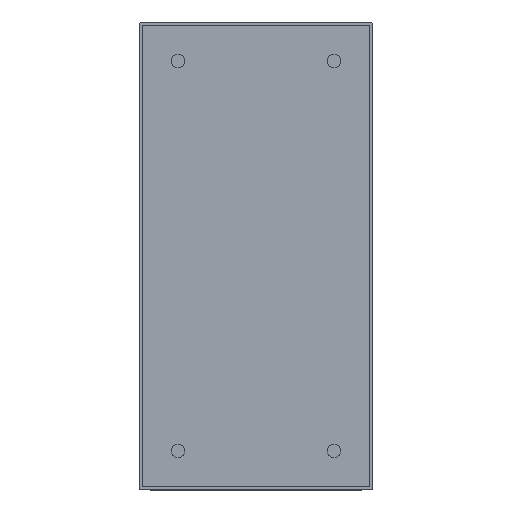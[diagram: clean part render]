
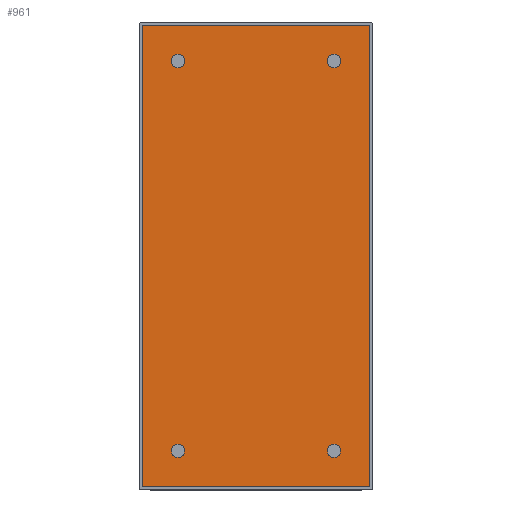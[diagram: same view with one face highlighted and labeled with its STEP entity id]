
A CAD part, top view. The second image highlights one B-rep face of the part: STEP entity #961.
In plain terms, the highlighted planar face has unit normal (0, 0, 1).
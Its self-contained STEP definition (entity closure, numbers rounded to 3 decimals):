
#18=FACE_BOUND('',#281,.T.);
#19=FACE_BOUND('',#282,.T.);
#20=FACE_BOUND('',#283,.T.);
#21=FACE_BOUND('',#284,.T.);
#86=LINE('',#4498,#138);
#90=LINE('',#4506,#142);
#93=LINE('',#4512,#145);
#96=LINE('',#4517,#148);
#138=VECTOR('',#1253,10.);
#142=VECTOR('',#1259,10.);
#145=VECTOR('',#1264,10.);
#148=VECTOR('',#1269,10.);
#165=PLANE('',#1057);
#222=FACE_OUTER_BOUND('',#280,.T.);
#280=EDGE_LOOP('',(#866,#867,#868,#869));
#281=EDGE_LOOP('',(#870));
#282=EDGE_LOOP('',(#871));
#283=EDGE_LOOP('',(#872));
#284=EDGE_LOOP('',(#873));
#326=CIRCLE('',#1042,4.263);
#328=CIRCLE('',#1045,4.263);
#330=CIRCLE('',#1048,4.263);
#332=CIRCLE('',#1051,4.263);
#446=VERTEX_POINT('',#4472);
#448=VERTEX_POINT('',#4478);
#450=VERTEX_POINT('',#4484);
#452=VERTEX_POINT('',#4490);
#454=VERTEX_POINT('',#4496);
#455=VERTEX_POINT('',#4497);
#458=VERTEX_POINT('',#4505);
#460=VERTEX_POINT('',#4511);
#578=EDGE_CURVE('',#446,#446,#326,.T.);
#581=EDGE_CURVE('',#448,#448,#328,.T.);
#584=EDGE_CURVE('',#450,#450,#330,.T.);
#587=EDGE_CURVE('',#452,#452,#332,.T.);
#590=EDGE_CURVE('',#454,#455,#86,.T.);
#594=EDGE_CURVE('',#455,#458,#90,.T.);
#597=EDGE_CURVE('',#458,#460,#93,.T.);
#600=EDGE_CURVE('',#460,#454,#96,.T.);
#866=ORIENTED_EDGE('',*,*,#600,.T.);
#867=ORIENTED_EDGE('',*,*,#590,.T.);
#868=ORIENTED_EDGE('',*,*,#594,.T.);
#869=ORIENTED_EDGE('',*,*,#597,.T.);
#870=ORIENTED_EDGE('',*,*,#578,.T.);
#871=ORIENTED_EDGE('',*,*,#581,.T.);
#872=ORIENTED_EDGE('',*,*,#584,.T.);
#873=ORIENTED_EDGE('',*,*,#587,.T.);
#961=ADVANCED_FACE('',(#222,#18,#19,#20,#21),#165,.T.);
#1042=AXIS2_PLACEMENT_3D('',#4473,#1225,#1226);
#1045=AXIS2_PLACEMENT_3D('',#4479,#1232,#1233);
#1048=AXIS2_PLACEMENT_3D('',#4485,#1239,#1240);
#1051=AXIS2_PLACEMENT_3D('',#4491,#1246,#1247);
#1057=AXIS2_PLACEMENT_3D('',#4519,#1271,#1272);
#1225=DIRECTION('center_axis',(0.,0.,-1.));
#1226=DIRECTION('ref_axis',(1.,0.,0.));
#1232=DIRECTION('center_axis',(0.,0.,-1.));
#1233=DIRECTION('ref_axis',(1.,0.,0.));
#1239=DIRECTION('center_axis',(0.,0.,-1.));
#1240=DIRECTION('ref_axis',(1.,0.,0.));
#1246=DIRECTION('center_axis',(0.,0.,-1.));
#1247=DIRECTION('ref_axis',(1.,0.,0.));
#1253=DIRECTION('',(-1.,0.,0.));
#1259=DIRECTION('',(0.,-1.,0.));
#1264=DIRECTION('',(1.,0.,0.));
#1269=DIRECTION('',(0.,1.,0.));
#1271=DIRECTION('center_axis',(0.,0.,1.));
#1272=DIRECTION('ref_axis',(-1.,0.,0.));
#4472=CARTESIAN_POINT('',(-54.263,-125.,80.));
#4473=CARTESIAN_POINT('Origin',(-50.,-125.,80.));
#4478=CARTESIAN_POINT('',(-54.263,125.,80.));
#4479=CARTESIAN_POINT('Origin',(-50.,125.,80.));
#4484=CARTESIAN_POINT('',(45.737,125.,80.));
#4485=CARTESIAN_POINT('Origin',(50.,125.,80.));
#4490=CARTESIAN_POINT('',(45.737,-125.,80.));
#4491=CARTESIAN_POINT('Origin',(50.,-125.,80.));
#4496=CARTESIAN_POINT('',(73.,148.,80.));
#4497=CARTESIAN_POINT('',(-73.,148.,80.));
#4498=CARTESIAN_POINT('',(73.,148.,80.));
#4505=CARTESIAN_POINT('',(-73.,-148.,80.));
#4506=CARTESIAN_POINT('',(-73.,148.,80.));
#4511=CARTESIAN_POINT('',(73.,-148.,80.));
#4512=CARTESIAN_POINT('',(-73.,-148.,80.));
#4517=CARTESIAN_POINT('',(73.,-148.,80.));
#4519=CARTESIAN_POINT('Origin',(0.,0.,80.));
